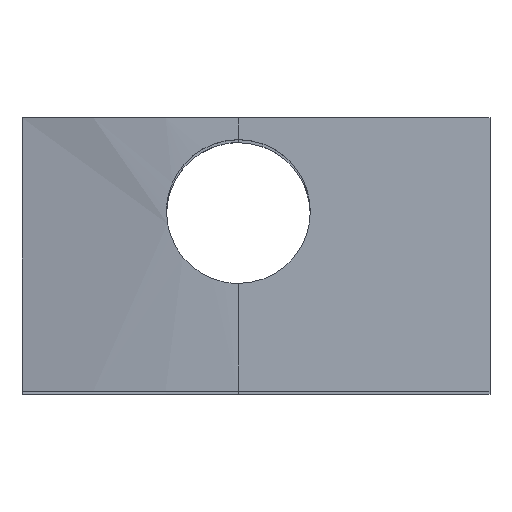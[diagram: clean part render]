
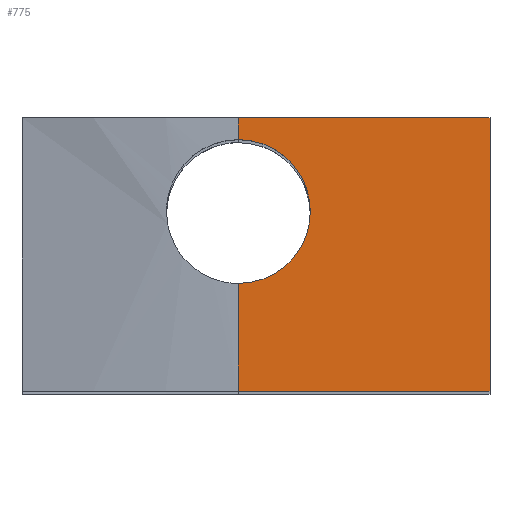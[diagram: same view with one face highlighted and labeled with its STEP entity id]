
A CAD part, top view. The second image highlights one B-rep face of the part: STEP entity #775.
In plain terms, the highlighted planar face has unit normal (0, 0, 1).
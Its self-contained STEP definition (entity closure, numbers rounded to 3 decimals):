
#33 = CYLINDRICAL_SURFACE('',#34,1.6);
#34 = AXIS2_PLACEMENT_3D('',#35,#36,#37);
#35 = CARTESIAN_POINT('',(0.,16.213,18.6));
#36 = DIRECTION('',(-0.,-0.,1.));
#37 = DIRECTION('',(1.,0.,0.));
#58 = VERTEX_POINT('',#59);
#59 = CARTESIAN_POINT('',(1.6,16.213,19.8));
#73 = CYLINDRICAL_SURFACE('',#74,1.6);
#74 = AXIS2_PLACEMENT_3D('',#75,#76,#77);
#75 = CARTESIAN_POINT('',(0.,16.213,18.6));
#76 = DIRECTION('',(-0.,-0.,1.));
#77 = DIRECTION('',(1.,0.,0.));
#85 = EDGE_CURVE('',#86,#58,#88,.T.);
#86 = VERTEX_POINT('',#87);
#87 = CARTESIAN_POINT('',(0.,14.613,19.8));
#88 = SURFACE_CURVE('',#89,(#94,#101),.PCURVE_S1.);
#89 = CIRCLE('',#90,1.6);
#90 = AXIS2_PLACEMENT_3D('',#91,#92,#93);
#91 = CARTESIAN_POINT('',(0.,16.213,19.8));
#92 = DIRECTION('',(0.,0.,1.));
#93 = DIRECTION('',(1.,0.,-0.));
#94 = PCURVE('',#33,#95);
#95 = DEFINITIONAL_REPRESENTATION('',(#96),#100);
#96 = LINE('',#97,#98);
#97 = CARTESIAN_POINT('',(0.,1.2));
#98 = VECTOR('',#99,1.);
#99 = DIRECTION('',(1.,0.));
#100 = ( GEOMETRIC_REPRESENTATION_CONTEXT(2) 
PARAMETRIC_REPRESENTATION_CONTEXT() REPRESENTATION_CONTEXT('2D SPACE',''
  ) );
#101 = PCURVE('',#102,#107);
#102 = PLANE('',#103);
#103 = AXIS2_PLACEMENT_3D('',#104,#105,#106);
#104 = CARTESIAN_POINT('',(0.,-57.007,19.8));
#105 = DIRECTION('',(0.,-0.,1.));
#106 = DIRECTION('',(1.,0.,0.));
#107 = DEFINITIONAL_REPRESENTATION('',(#108),#112);
#108 = CIRCLE('',#109,1.6);
#109 = AXIS2_PLACEMENT_2D('',#110,#111);
#110 = CARTESIAN_POINT('',(0.,73.22));
#111 = DIRECTION('',(1.,0.));
#112 = ( GEOMETRIC_REPRESENTATION_CONTEXT(2) 
PARAMETRIC_REPRESENTATION_CONTEXT() REPRESENTATION_CONTEXT('2D SPACE',''
  ) );
#187 = CYLINDRICAL_SURFACE('',#188,19.8);
#188 = AXIS2_PLACEMENT_3D('',#189,#190,#191);
#189 = CARTESIAN_POINT('',(0.,-57.007,0.));
#190 = DIRECTION('',(0.,1.,0.));
#191 = DIRECTION('',(0.,-0.,1.));
#407 = PLANE('',#408);
#408 = AXIS2_PLACEMENT_3D('',#409,#410,#411);
#409 = CARTESIAN_POINT('',(0.,18.3,0.));
#410 = DIRECTION('',(0.,1.,0.));
#411 = DIRECTION('',(0.,-0.,1.));
#432 = VERTEX_POINT('',#433);
#433 = CARTESIAN_POINT('',(0.,18.3,19.8));
#455 = EDGE_CURVE('',#432,#456,#458,.T.);
#456 = VERTEX_POINT('',#457);
#457 = CARTESIAN_POINT('',(5.599,18.3,19.8));
#458 = SURFACE_CURVE('',#459,(#463,#470),.PCURVE_S1.);
#459 = LINE('',#460,#461);
#460 = CARTESIAN_POINT('',(0.,18.3,19.8));
#461 = VECTOR('',#462,1.);
#462 = DIRECTION('',(1.,0.,0.));
#463 = PCURVE('',#407,#464);
#464 = DEFINITIONAL_REPRESENTATION('',(#465),#469);
#465 = LINE('',#466,#467);
#466 = CARTESIAN_POINT('',(19.8,0.));
#467 = VECTOR('',#468,1.);
#468 = DIRECTION('',(0.,1.));
#469 = ( GEOMETRIC_REPRESENTATION_CONTEXT(2) 
PARAMETRIC_REPRESENTATION_CONTEXT() REPRESENTATION_CONTEXT('2D SPACE',''
  ) );
#470 = PCURVE('',#102,#471);
#471 = DEFINITIONAL_REPRESENTATION('',(#472),#476);
#472 = LINE('',#473,#474);
#473 = CARTESIAN_POINT('',(0.,75.307));
#474 = VECTOR('',#475,1.);
#475 = DIRECTION('',(1.,0.));
#476 = ( GEOMETRIC_REPRESENTATION_CONTEXT(2) 
PARAMETRIC_REPRESENTATION_CONTEXT() REPRESENTATION_CONTEXT('2D SPACE',''
  ) );
#494 = PLANE('',#495);
#495 = AXIS2_PLACEMENT_3D('',#496,#497,#498);
#496 = CARTESIAN_POINT('',(5.599,7.3,-19.8));
#497 = DIRECTION('',(-1.,0.,0.));
#498 = DIRECTION('',(0.,0.,1.));
#578 = VERTEX_POINT('',#579);
#579 = CARTESIAN_POINT('',(0.,12.214,19.8));
#594 = PLANE('',#595);
#595 = AXIS2_PLACEMENT_3D('',#596,#597,#598);
#596 = CARTESIAN_POINT('',(-4.815,12.214,-30.2));
#597 = DIRECTION('',(-0.,1.,0.));
#598 = DIRECTION('',(0.,0.,1.));
#610 = EDGE_CURVE('',#578,#86,#611,.T.);
#611 = SURFACE_CURVE('',#612,(#616,#623),.PCURVE_S1.);
#612 = LINE('',#613,#614);
#613 = CARTESIAN_POINT('',(0.,-57.007,19.8));
#614 = VECTOR('',#615,1.);
#615 = DIRECTION('',(0.,1.,0.));
#616 = PCURVE('',#187,#617);
#617 = DEFINITIONAL_REPRESENTATION('',(#618),#622);
#618 = LINE('',#619,#620);
#619 = CARTESIAN_POINT('',(6.283,0.));
#620 = VECTOR('',#621,1.);
#621 = DIRECTION('',(0.,1.));
#622 = ( GEOMETRIC_REPRESENTATION_CONTEXT(2) 
PARAMETRIC_REPRESENTATION_CONTEXT() REPRESENTATION_CONTEXT('2D SPACE',''
  ) );
#623 = PCURVE('',#102,#624);
#624 = DEFINITIONAL_REPRESENTATION('',(#625),#629);
#625 = LINE('',#626,#627);
#626 = CARTESIAN_POINT('',(0.,0.));
#627 = VECTOR('',#628,1.);
#628 = DIRECTION('',(0.,1.));
#629 = ( GEOMETRIC_REPRESENTATION_CONTEXT(2) 
PARAMETRIC_REPRESENTATION_CONTEXT() REPRESENTATION_CONTEXT('2D SPACE',''
  ) );
#633 = VERTEX_POINT('',#634);
#634 = CARTESIAN_POINT('',(0.,17.813,19.8));
#754 = EDGE_CURVE('',#633,#432,#755,.T.);
#755 = SURFACE_CURVE('',#756,(#760,#767),.PCURVE_S1.);
#756 = LINE('',#757,#758);
#757 = CARTESIAN_POINT('',(0.,-57.007,19.8));
#758 = VECTOR('',#759,1.);
#759 = DIRECTION('',(0.,1.,0.));
#760 = PCURVE('',#187,#761);
#761 = DEFINITIONAL_REPRESENTATION('',(#762),#766);
#762 = LINE('',#763,#764);
#763 = CARTESIAN_POINT('',(6.283,0.));
#764 = VECTOR('',#765,1.);
#765 = DIRECTION('',(0.,1.));
#766 = ( GEOMETRIC_REPRESENTATION_CONTEXT(2) 
PARAMETRIC_REPRESENTATION_CONTEXT() REPRESENTATION_CONTEXT('2D SPACE',''
  ) );
#767 = PCURVE('',#102,#768);
#768 = DEFINITIONAL_REPRESENTATION('',(#769),#773);
#769 = LINE('',#770,#771);
#770 = CARTESIAN_POINT('',(0.,0.));
#771 = VECTOR('',#772,1.);
#772 = DIRECTION('',(0.,1.));
#773 = ( GEOMETRIC_REPRESENTATION_CONTEXT(2) 
PARAMETRIC_REPRESENTATION_CONTEXT() REPRESENTATION_CONTEXT('2D SPACE',''
  ) );
#775 = ADVANCED_FACE('',(#776),#102,.T.);
#776 = FACE_BOUND('',#777,.T.);
#777 = EDGE_LOOP('',(#778,#801,#822,#823,#824,#846,#847));
#778 = ORIENTED_EDGE('',*,*,#779,.F.);
#779 = EDGE_CURVE('',#780,#578,#782,.T.);
#780 = VERTEX_POINT('',#781);
#781 = CARTESIAN_POINT('',(5.599,12.214,19.8));
#782 = SURFACE_CURVE('',#783,(#787,#794),.PCURVE_S1.);
#783 = LINE('',#784,#785);
#784 = CARTESIAN_POINT('',(0.,12.214,19.8));
#785 = VECTOR('',#786,1.);
#786 = DIRECTION('',(-1.,0.,0.));
#787 = PCURVE('',#102,#788);
#788 = DEFINITIONAL_REPRESENTATION('',(#789),#793);
#789 = LINE('',#790,#791);
#790 = CARTESIAN_POINT('',(0.,69.222));
#791 = VECTOR('',#792,1.);
#792 = DIRECTION('',(-1.,0.));
#793 = ( GEOMETRIC_REPRESENTATION_CONTEXT(2) 
PARAMETRIC_REPRESENTATION_CONTEXT() REPRESENTATION_CONTEXT('2D SPACE',''
  ) );
#794 = PCURVE('',#594,#795);
#795 = DEFINITIONAL_REPRESENTATION('',(#796),#800);
#796 = LINE('',#797,#798);
#797 = CARTESIAN_POINT('',(50.,4.815));
#798 = VECTOR('',#799,1.);
#799 = DIRECTION('',(0.,-1.));
#800 = ( GEOMETRIC_REPRESENTATION_CONTEXT(2) 
PARAMETRIC_REPRESENTATION_CONTEXT() REPRESENTATION_CONTEXT('2D SPACE',''
  ) );
#801 = ORIENTED_EDGE('',*,*,#802,.T.);
#802 = EDGE_CURVE('',#780,#456,#803,.T.);
#803 = SURFACE_CURVE('',#804,(#808,#815),.PCURVE_S1.);
#804 = LINE('',#805,#806);
#805 = CARTESIAN_POINT('',(5.599,7.3,19.8));
#806 = VECTOR('',#807,1.);
#807 = DIRECTION('',(-0.,1.,-0.));
#808 = PCURVE('',#102,#809);
#809 = DEFINITIONAL_REPRESENTATION('',(#810),#814);
#810 = LINE('',#811,#812);
#811 = CARTESIAN_POINT('',(5.599,64.307));
#812 = VECTOR('',#813,1.);
#813 = DIRECTION('',(0.,1.));
#814 = ( GEOMETRIC_REPRESENTATION_CONTEXT(2) 
PARAMETRIC_REPRESENTATION_CONTEXT() REPRESENTATION_CONTEXT('2D SPACE',''
  ) );
#815 = PCURVE('',#494,#816);
#816 = DEFINITIONAL_REPRESENTATION('',(#817),#821);
#817 = LINE('',#818,#819);
#818 = CARTESIAN_POINT('',(39.6,0.));
#819 = VECTOR('',#820,1.);
#820 = DIRECTION('',(0.,1.));
#821 = ( GEOMETRIC_REPRESENTATION_CONTEXT(2) 
PARAMETRIC_REPRESENTATION_CONTEXT() REPRESENTATION_CONTEXT('2D SPACE',''
  ) );
#822 = ORIENTED_EDGE('',*,*,#455,.F.);
#823 = ORIENTED_EDGE('',*,*,#754,.F.);
#824 = ORIENTED_EDGE('',*,*,#825,.F.);
#825 = EDGE_CURVE('',#58,#633,#826,.T.);
#826 = SURFACE_CURVE('',#827,(#832,#839),.PCURVE_S1.);
#827 = CIRCLE('',#828,1.6);
#828 = AXIS2_PLACEMENT_3D('',#829,#830,#831);
#829 = CARTESIAN_POINT('',(0.,16.213,19.8));
#830 = DIRECTION('',(0.,0.,1.));
#831 = DIRECTION('',(1.,0.,-0.));
#832 = PCURVE('',#102,#833);
#833 = DEFINITIONAL_REPRESENTATION('',(#834),#838);
#834 = CIRCLE('',#835,1.6);
#835 = AXIS2_PLACEMENT_2D('',#836,#837);
#836 = CARTESIAN_POINT('',(0.,73.22));
#837 = DIRECTION('',(1.,0.));
#838 = ( GEOMETRIC_REPRESENTATION_CONTEXT(2) 
PARAMETRIC_REPRESENTATION_CONTEXT() REPRESENTATION_CONTEXT('2D SPACE',''
  ) );
#839 = PCURVE('',#73,#840);
#840 = DEFINITIONAL_REPRESENTATION('',(#841),#845);
#841 = LINE('',#842,#843);
#842 = CARTESIAN_POINT('',(0.,1.2));
#843 = VECTOR('',#844,1.);
#844 = DIRECTION('',(1.,0.));
#845 = ( GEOMETRIC_REPRESENTATION_CONTEXT(2) 
PARAMETRIC_REPRESENTATION_CONTEXT() REPRESENTATION_CONTEXT('2D SPACE',''
  ) );
#846 = ORIENTED_EDGE('',*,*,#85,.F.);
#847 = ORIENTED_EDGE('',*,*,#610,.F.);
